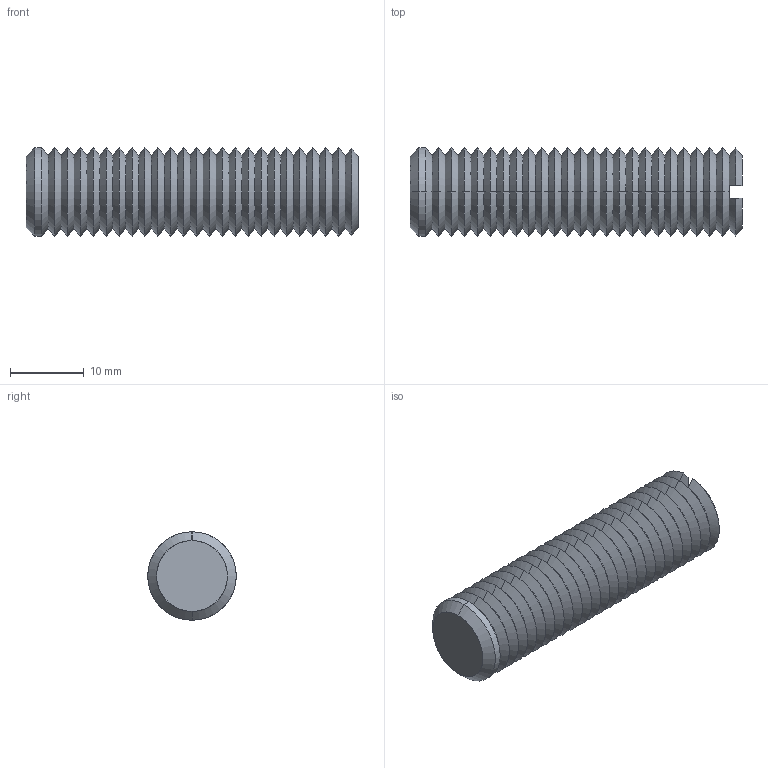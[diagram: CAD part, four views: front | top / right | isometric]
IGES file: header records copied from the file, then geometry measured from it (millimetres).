
Start section: SolidWorks IGES file using analytic representation for surfaces
Global section: file name: C:\Documents and Settings\IANO\Desktop\Temp File\Process pending\EXISTING\34300_v2\34300_v2_20170622_IGES\34300.W0123.igs; native system: SolidWorks 2009; preprocessor: SolidWorks 2009; author: IANO; date: 170622.094209; units: millimetre
Bounding box: 45 x 12 x 12 mm (x, y, z)
Surface area: 2619 mm2 (no closed solid volume)
Topology: 0 solids, 0 shells, 108 faces, 496 edges, 496 vertices
Faces by surface type: revolution 102, bspline 6
